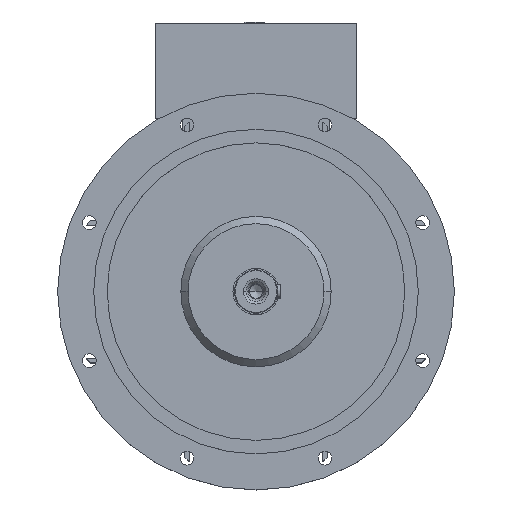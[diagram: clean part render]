
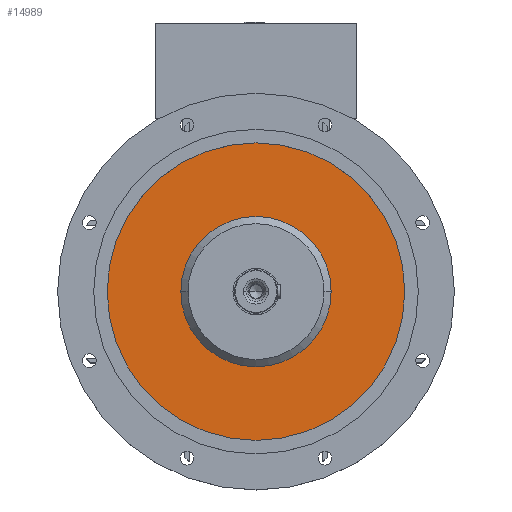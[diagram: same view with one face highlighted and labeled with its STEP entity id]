
A CAD part, top view. The second image highlights one B-rep face of the part: STEP entity #14989.
In plain terms, the highlighted planar face has unit normal (0, 0, 1).
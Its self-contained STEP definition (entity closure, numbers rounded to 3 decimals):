
#106 = DIRECTION ( 'NONE',  ( -1., 0., 0. ) ) ;
#121 = DIRECTION ( 'NONE',  ( 0., 0., 1. ) ) ;
#313 = CARTESIAN_POINT ( 'NONE',  ( 0., 206.25, 330.5 ) ) ;
#769 = AXIS2_PLACEMENT_3D ( 'NONE', #21711, #121, #13867 ) ;
#779 = AXIS2_PLACEMENT_3D ( 'NONE', #9230, #13182, #24853 ) ;
#1108 = EDGE_LOOP ( 'NONE', ( #11051, #10388 ) ) ;
#2355 = EDGE_CURVE ( 'NONE', #22310, #12872, #3905, .T. ) ;
#3905 = CIRCLE ( 'NONE', #769, 206.25 ) ;
#4662 = CARTESIAN_POINT ( 'NONE',  ( -206.25, 0., 330.5 ) ) ;
#4923 = CARTESIAN_POINT ( 'NONE',  ( 104.2, 0., 330.5 ) ) ;
#6096 = AXIS2_PLACEMENT_3D ( 'NONE', #13514, #13684, #7925 ) ;
#6186 = CIRCLE ( 'NONE', #7523, 104.2 ) ;
#6924 = VERTEX_POINT ( 'NONE', #10455 ) ;
#7047 = CIRCLE ( 'NONE', #779, 104.2 ) ;
#7079 = FACE_BOUND ( 'NONE', #15666, .T. ) ;
#7523 = AXIS2_PLACEMENT_3D ( 'NONE', #12041, #15591, #106 ) ;
#7925 = DIRECTION ( 'NONE',  ( -1., 0., 0. ) ) ;
#8285 = DIRECTION ( 'NONE',  ( 0., 0., 1. ) ) ;
#8434 = EDGE_CURVE ( 'NONE', #12872, #22310, #16525, .T. ) ;
#9230 = CARTESIAN_POINT ( 'NONE',  ( 0., 0., 330.5 ) ) ;
#9449 = ORIENTED_EDGE ( 'NONE', *, *, #20050, .T. ) ;
#10388 = ORIENTED_EDGE ( 'NONE', *, *, #8434, .T. ) ;
#10455 = CARTESIAN_POINT ( 'NONE',  ( -104.2, 0., 330.5 ) ) ;
#11051 = ORIENTED_EDGE ( 'NONE', *, *, #2355, .T. ) ;
#11956 = ORIENTED_EDGE ( 'NONE', *, *, #12984, .T. ) ;
#12041 = CARTESIAN_POINT ( 'NONE',  ( 0., 0., 330.5 ) ) ;
#12159 = DIRECTION ( 'NONE',  ( 1., 0., 0. ) ) ;
#12872 = VERTEX_POINT ( 'NONE', #18592 ) ;
#12984 = EDGE_CURVE ( 'NONE', #15235, #6924, #7047, .T. ) ;
#13182 = DIRECTION ( 'NONE',  ( 0., 0., -1. ) ) ;
#13514 = CARTESIAN_POINT ( 'NONE',  ( 0., 0., 330.5 ) ) ;
#13684 = DIRECTION ( 'NONE',  ( 0., 0., 1. ) ) ;
#13867 = DIRECTION ( 'NONE',  ( -1., 0., 0. ) ) ;
#14056 = PLANE ( 'NONE',  #25473 ) ;
#14989 = ADVANCED_FACE ( 'NONE', ( #23064, #7079 ), #14056, .T. ) ;
#15235 = VERTEX_POINT ( 'NONE', #4923 ) ;
#15591 = DIRECTION ( 'NONE',  ( 0., 0., -1. ) ) ;
#15666 = EDGE_LOOP ( 'NONE', ( #9449, #11956 ) ) ;
#16525 = CIRCLE ( 'NONE', #6096, 206.25 ) ;
#18592 = CARTESIAN_POINT ( 'NONE',  ( 206.25, 0., 330.5 ) ) ;
#20050 = EDGE_CURVE ( 'NONE', #6924, #15235, #6186, .T. ) ;
#21711 = CARTESIAN_POINT ( 'NONE',  ( 0., 0., 330.5 ) ) ;
#22310 = VERTEX_POINT ( 'NONE', #4662 ) ;
#23064 = FACE_OUTER_BOUND ( 'NONE', #1108, .T. ) ;
#24853 = DIRECTION ( 'NONE',  ( -1., 0., 0. ) ) ;
#25473 = AXIS2_PLACEMENT_3D ( 'NONE', #313, #8285, #12159 ) ;
